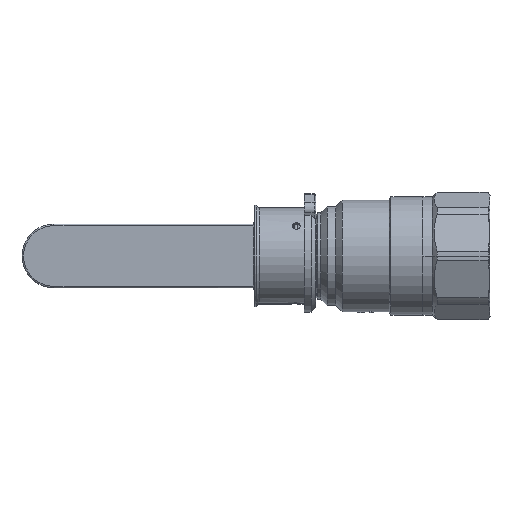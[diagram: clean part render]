
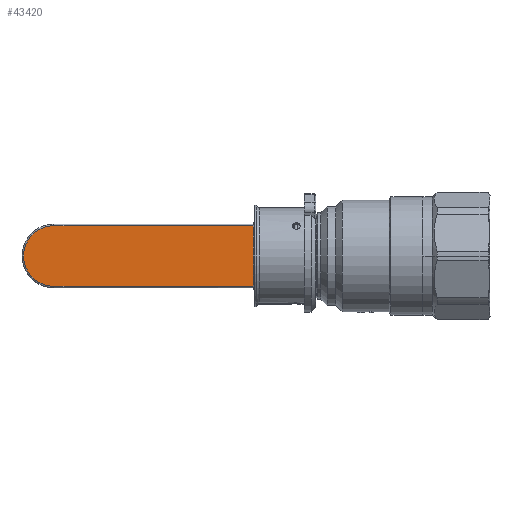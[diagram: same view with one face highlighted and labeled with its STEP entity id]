
A CAD part, front view. The second image highlights one B-rep face of the part: STEP entity #43420.
In plain terms, the highlighted planar face has unit normal (0, -1, 0).
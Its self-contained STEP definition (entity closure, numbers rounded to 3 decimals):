
#2221 = DIRECTION ( 'NONE',  ( 0., 0., 1. ) ) ;
#2325 = CARTESIAN_POINT ( 'NONE',  ( 2.828, 2.828, 9.5 ) ) ;
#2345 = FACE_OUTER_BOUND ( 'NONE', #33233, .T. ) ;
#3311 = VECTOR ( 'NONE', #27516, 1000. ) ;
#5600 = EDGE_CURVE ( 'NONE', #13329, #33138, #14389, .T. ) ;
#5688 = ORIENTED_EDGE ( 'NONE', *, *, #42025, .T. ) ;
#7575 = LINE ( 'NONE', #23908, #3311 ) ;
#10114 = VECTOR ( 'NONE', #29900, 1000. ) ;
#10292 = AXIS2_PLACEMENT_3D ( 'NONE', #17034, #40930, #30761 ) ;
#11329 = VERTEX_POINT ( 'NONE', #29341 ) ;
#11585 = ORIENTED_EDGE ( 'NONE', *, *, #18704, .T. ) ;
#12658 = CARTESIAN_POINT ( 'NONE',  ( 72.23, 2.828, 0. ) ) ;
#13329 = VERTEX_POINT ( 'NONE', #42000 ) ;
#14389 = CIRCLE ( 'NONE', #18917, 9.5 ) ;
#14542 = CARTESIAN_POINT ( 'NONE',  ( 2.828, 2.828, -9.5 ) ) ;
#15382 = ORIENTED_EDGE ( 'NONE', *, *, #38948, .T. ) ;
#17034 = CARTESIAN_POINT ( 'NONE',  ( 72.23, 2.828, 0. ) ) ;
#18704 = EDGE_CURVE ( 'NONE', #34938, #29903, #19231, .T. ) ;
#18917 = AXIS2_PLACEMENT_3D ( 'NONE', #12658, #43271, #2221 ) ;
#19231 = LINE ( 'NONE', #19466, #10114 ) ;
#19466 = CARTESIAN_POINT ( 'NONE',  ( 2.828, 2.828, 10. ) ) ;
#23734 = LINE ( 'NONE', #2325, #36580 ) ;
#23908 = CARTESIAN_POINT ( 'NONE',  ( 2.828, 2.828, -9.5 ) ) ;
#24651 = PLANE ( 'NONE',  #29609 ) ;
#24800 = DIRECTION ( 'NONE',  ( 0., 0., 1. ) ) ;
#24949 = CARTESIAN_POINT ( 'NONE',  ( 2.828, 2.828, 10. ) ) ;
#27059 = CIRCLE ( 'NONE', #10292, 9.5 ) ;
#27516 = DIRECTION ( 'NONE',  ( 1., 0., 0. ) ) ;
#28066 = ORIENTED_EDGE ( 'NONE', *, *, #5600, .T. ) ;
#29335 = DIRECTION ( 'NONE',  ( -1., 0., 0. ) ) ;
#29341 = CARTESIAN_POINT ( 'NONE',  ( 72.23, 2.828, -9.5 ) ) ;
#29609 = AXIS2_PLACEMENT_3D ( 'NONE', #24949, #31531, #24800 ) ;
#29900 = DIRECTION ( 'NONE',  ( 0., 0., -1. ) ) ;
#29903 = VERTEX_POINT ( 'NONE', #14542 ) ;
#30237 = EDGE_CURVE ( 'NONE', #29903, #11329, #7575, .T. ) ;
#30761 = DIRECTION ( 'NONE',  ( 0., 0., 1. ) ) ;
#31419 = CARTESIAN_POINT ( 'NONE',  ( 2.828, 2.828, 9.5 ) ) ;
#31531 = DIRECTION ( 'NONE',  ( 0., 1., 0. ) ) ;
#33138 = VERTEX_POINT ( 'NONE', #33512 ) ;
#33233 = EDGE_LOOP ( 'NONE', ( #11585, #42179, #15382, #28066, #5688 ) ) ;
#33512 = CARTESIAN_POINT ( 'NONE',  ( 72.23, 2.828, 9.5 ) ) ;
#34938 = VERTEX_POINT ( 'NONE', #31419 ) ;
#36580 = VECTOR ( 'NONE', #29335, 1000. ) ;
#38948 = EDGE_CURVE ( 'NONE', #11329, #13329, #27059, .T. ) ;
#40930 = DIRECTION ( 'NONE',  ( 0., -1., 0. ) ) ;
#42000 = CARTESIAN_POINT ( 'NONE',  ( 81.73, 2.828, 0. ) ) ;
#42025 = EDGE_CURVE ( 'NONE', #33138, #34938, #23734, .T. ) ;
#42179 = ORIENTED_EDGE ( 'NONE', *, *, #30237, .T. ) ;
#43271 = DIRECTION ( 'NONE',  ( 0., -1., 0. ) ) ;
#43420 = ADVANCED_FACE ( 'NONE', ( #2345 ), #24651, .F. ) ;
